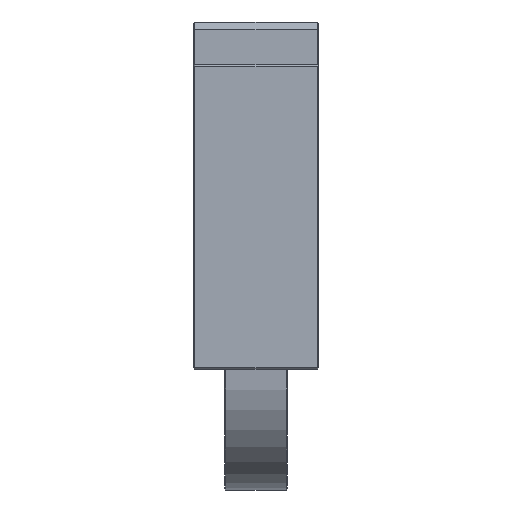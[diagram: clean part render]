
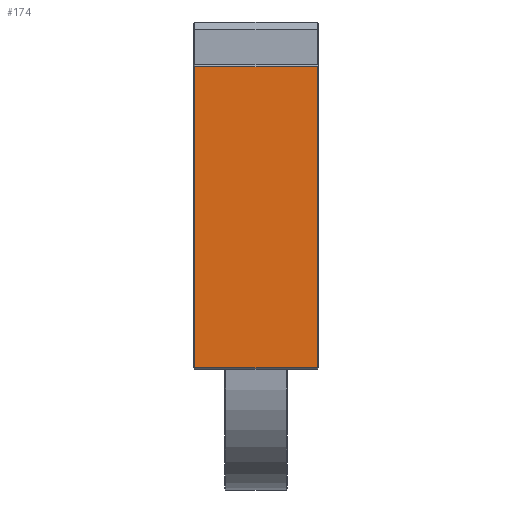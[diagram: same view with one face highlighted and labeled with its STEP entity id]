
A CAD part, left-side view. The second image highlights one B-rep face of the part: STEP entity #174.
In plain terms, the highlighted planar face has unit normal (-1, 0, 0).
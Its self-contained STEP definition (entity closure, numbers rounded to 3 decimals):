
#174 = ADVANCED_FACE( '', ( #583 ), #584, .T. );
#583 = FACE_OUTER_BOUND( '', #1446, .T. );
#584 = PLANE( '', #1447 );
#1446 = EDGE_LOOP( '', ( #2454, #2455, #2456, #2457 ) );
#1447 = AXIS2_PLACEMENT_3D( '', #2458, #2459, #2460 );
#2454 = ORIENTED_EDGE( '', *, *, #5699, .T. );
#2455 = ORIENTED_EDGE( '', *, *, #5700, .T. );
#2456 = ORIENTED_EDGE( '', *, *, #5701, .T. );
#2457 = ORIENTED_EDGE( '', *, *, #5702, .T. );
#2458 = CARTESIAN_POINT( '', ( -64., -16., 0. ) );
#2459 = DIRECTION( '', ( -1., 0., 0. ) );
#2460 = DIRECTION( '', ( 0., 0., 1. ) );
#5699 = EDGE_CURVE( '', #6889, #6890, #6891, .T. );
#5700 = EDGE_CURVE( '', #6890, #6892, #6893, .T. );
#5701 = EDGE_CURVE( '', #6892, #6894, #6895, .T. );
#5702 = EDGE_CURVE( '', #6894, #6889, #6896, .T. );
#6889 = VERTEX_POINT( '', #8696 );
#6890 = VERTEX_POINT( '', #8697 );
#6891 = LINE( '', #8698, #8699 );
#6892 = VERTEX_POINT( '', #8700 );
#6893 = LINE( '', #8701, #8702 );
#6894 = VERTEX_POINT( '', #8703 );
#6895 = LINE( '', #8704, #8705 );
#6896 = LINE( '', #8706, #8707 );
#8696 = CARTESIAN_POINT( '', ( -64., -15.7, 77.5 ) );
#8697 = CARTESIAN_POINT( '', ( -64., 15.7, 77.5 ) );
#8698 = CARTESIAN_POINT( '', ( -64., -16., 77.5 ) );
#8699 = VECTOR( '', #11711, 1000. );
#8700 = CARTESIAN_POINT( '', ( -64., 15.7, 0.3 ) );
#8701 = CARTESIAN_POINT( '', ( -64., 15.7, 0. ) );
#8702 = VECTOR( '', #11712, 1000. );
#8703 = CARTESIAN_POINT( '', ( -64., -15.7, 0.3 ) );
#8704 = CARTESIAN_POINT( '', ( -64., -16., 0.3 ) );
#8705 = VECTOR( '', #11713, 1000. );
#8706 = CARTESIAN_POINT( '', ( -64., -15.7, 77.5 ) );
#8707 = VECTOR( '', #11714, 1000. );
#11711 = DIRECTION( '', ( 0., 1., 0. ) );
#11712 = DIRECTION( '', ( 0., 0., -1. ) );
#11713 = DIRECTION( '', ( 0., -1., 0. ) );
#11714 = DIRECTION( '', ( 0., 0., 1. ) );
